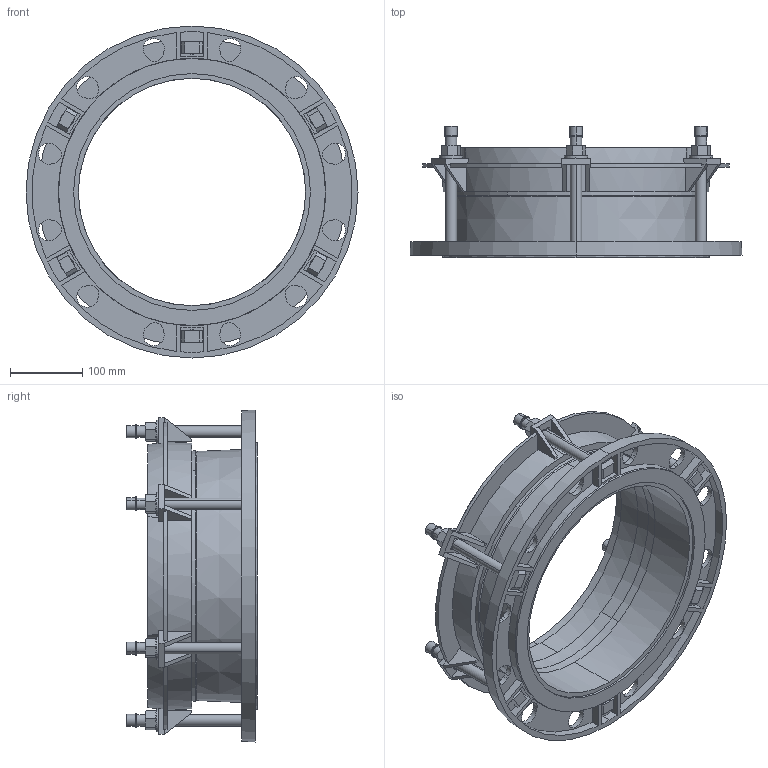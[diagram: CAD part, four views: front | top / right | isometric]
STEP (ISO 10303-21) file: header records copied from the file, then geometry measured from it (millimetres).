
FILE_DESCRIPTION (( 'STEP AP203' ), '1' );
FILE_NAME ('O_623_10_DN300-315mm_X1XXXXX_REV01.step', '2020-04-17T09:22:46', ( '' ), ( '' ), 'SwSTEP 2.0', 'SolidWorks 2019', '' );
FILE_SCHEMA (( 'CONFIG_CONTROL_DESIGN' ));
Length unit declared in the file: millimetre
Products named in the file (1): O_623_10_DN300-315mm_X1XXXXX_REV01
Bounding box: 460 x 181.5 x 460 mm (x, y, z)
Volume: 4493025.4 mm3; surface area: 713628.6 mm2
Topology: 1 solids, 1 shells, 686 faces, 1768 edges, 1117 vertices
Faces by surface type: plane 370, cylinder 223, cone 93
Entity records: 21600 total; most frequent: CARTESIAN_POINT 4640, ORIENTED_EDGE 3536, DIRECTION 3517, EDGE_CURVE 1768, AXIS2_PLACEMENT_3D 1266, VERTEX_POINT 1117, VECTOR 985, LINE 985
